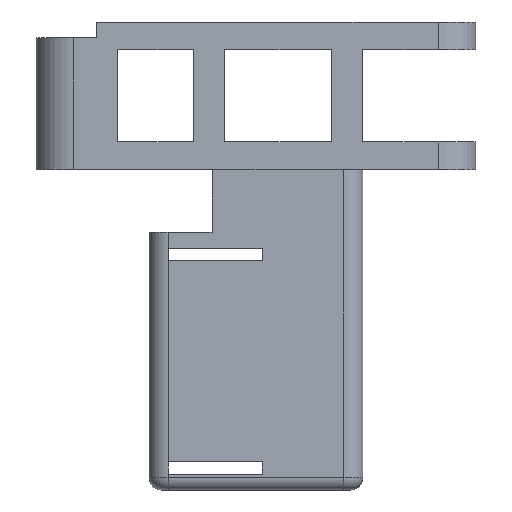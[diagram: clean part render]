
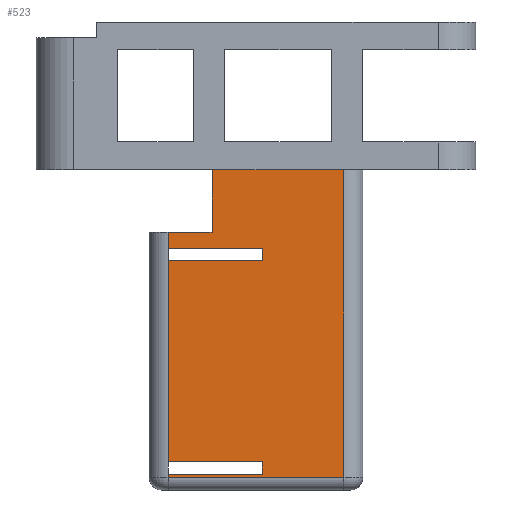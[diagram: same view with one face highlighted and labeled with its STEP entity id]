
A CAD part, left-side view. The second image highlights one B-rep face of the part: STEP entity #523.
In plain terms, the highlighted planar face has unit normal (-1, 0, 0).
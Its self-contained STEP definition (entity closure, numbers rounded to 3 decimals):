
#41 = VECTOR ( 'NONE', #944, 1000. ) ;
#47 = CARTESIAN_POINT ( 'NONE',  ( 7., 42.933, -39. ) ) ;
#58 = LINE ( 'NONE', #1145, #240 ) ;
#64 = CARTESIAN_POINT ( 'NONE',  ( 7., 28., -75.5 ) ) ;
#78 = VERTEX_POINT ( 'NONE', #86 ) ;
#86 = CARTESIAN_POINT ( 'NONE',  ( 7., 36., -34.5 ) ) ;
#89 = DIRECTION ( 'NONE',  ( 1., 0., 0. ) ) ;
#100 = EDGE_CURVE ( 'NONE', #712, #78, #1737, .T. ) ;
#101 = LINE ( 'NONE', #517, #666 ) ;
#110 = VERTEX_POINT ( 'NONE', #1371 ) ;
#130 = EDGE_CURVE ( 'NONE', #1573, #110, #280, .T. ) ;
#135 = CARTESIAN_POINT ( 'NONE',  ( 7., 27.933, -37. ) ) ;
#138 = ORIENTED_EDGE ( 'NONE', *, *, #238, .T. ) ;
#142 = VERTEX_POINT ( 'NONE', #1112 ) ;
#208 = VECTOR ( 'NONE', #1214, 1000. ) ;
#232 = ORIENTED_EDGE ( 'NONE', *, *, #676, .T. ) ;
#238 = EDGE_CURVE ( 'NONE', #142, #436, #1774, .T. ) ;
#240 = VECTOR ( 'NONE', #621, 1000. ) ;
#280 = LINE ( 'NONE', #1120, #208 ) ;
#307 = ORIENTED_EDGE ( 'NONE', *, *, #1626, .T. ) ;
#308 = VERTEX_POINT ( 'NONE', #1388 ) ;
#311 = CARTESIAN_POINT ( 'NONE',  ( 7., 36., -73. ) ) ;
#334 = ORIENTED_EDGE ( 'NONE', *, *, #390, .T. ) ;
#337 = EDGE_CURVE ( 'NONE', #834, #615, #1251, .T. ) ;
#342 = DIRECTION ( 'NONE',  ( 0., -1., 0. ) ) ;
#343 = EDGE_LOOP ( 'NONE', ( #766, #422, #334, #1271 ) ) ;
#371 = DIRECTION ( 'NONE',  ( 0., -1., 0. ) ) ;
#378 = VECTOR ( 'NONE', #672, 1000. ) ;
#383 = VECTOR ( 'NONE', #1143, 1000. ) ;
#390 = EDGE_CURVE ( 'NONE', #615, #1261, #1160, .T. ) ;
#395 = VERTEX_POINT ( 'NONE', #710 ) ;
#422 = ORIENTED_EDGE ( 'NONE', *, *, #337, .T. ) ;
#436 = VERTEX_POINT ( 'NONE', #1555 ) ;
#446 = VECTOR ( 'NONE', #794, 1000. ) ;
#454 = ORIENTED_EDGE ( 'NONE', *, *, #948, .T. ) ;
#468 = VECTOR ( 'NONE', #526, 1000. ) ;
#479 = DIRECTION ( 'NONE',  ( 0., 0., -1. ) ) ;
#503 = VECTOR ( 'NONE', #1699, 1000. ) ;
#517 = CARTESIAN_POINT ( 'NONE',  ( 7., 36., -75.5 ) ) ;
#523 = ADVANCED_FACE ( 'NONE', ( #888, #1034 ), #911, .F. ) ;
#526 = DIRECTION ( 'NONE',  ( 0., -1., 0. ) ) ;
#531 = VERTEX_POINT ( 'NONE', #1184 ) ;
#538 = ORIENTED_EDGE ( 'NONE', *, *, #1635, .T. ) ;
#548 = CARTESIAN_POINT ( 'NONE',  ( 7., 43., -75.5 ) ) ;
#585 = VECTOR ( 'NONE', #479, 1000. ) ;
#602 = EDGE_CURVE ( 'NONE', #78, #1573, #101, .T. ) ;
#610 = ORIENTED_EDGE ( 'NONE', *, *, #602, .F. ) ;
#615 = VERTEX_POINT ( 'NONE', #135 ) ;
#619 = LINE ( 'NONE', #1576, #1276 ) ;
#621 = DIRECTION ( 'NONE',  ( 0., 1., 0. ) ) ;
#628 = ORIENTED_EDGE ( 'NONE', *, *, #1053, .T. ) ;
#632 = DIRECTION ( 'NONE',  ( 0., 1., 0. ) ) ;
#659 = LINE ( 'NONE', #1520, #41 ) ;
#666 = VECTOR ( 'NONE', #1304, 1000. ) ;
#672 = DIRECTION ( 'NONE',  ( 0., -1., 0. ) ) ;
#676 = EDGE_CURVE ( 'NONE', #436, #308, #1636, .T. ) ;
#690 = CARTESIAN_POINT ( 'NONE',  ( 7., 36., -37. ) ) ;
#698 = CARTESIAN_POINT ( 'NONE',  ( 7., 28., -71. ) ) ;
#710 = CARTESIAN_POINT ( 'NONE',  ( 7., 43., -71. ) ) ;
#712 = VERTEX_POINT ( 'NONE', #1106 ) ;
#737 = CARTESIAN_POINT ( 'NONE',  ( 7., 42.933, -37. ) ) ;
#746 = CARTESIAN_POINT ( 'NONE',  ( 7., 36., -24.5 ) ) ;
#756 = LINE ( 'NONE', #64, #503 ) ;
#766 = ORIENTED_EDGE ( 'NONE', *, *, #1338, .T. ) ;
#794 = DIRECTION ( 'NONE',  ( 0., 0., 1. ) ) ;
#834 = VERTEX_POINT ( 'NONE', #737 ) ;
#843 = VERTEX_POINT ( 'NONE', #47 ) ;
#888 = FACE_BOUND ( 'NONE', #343, .T. ) ;
#889 = LINE ( 'NONE', #311, #383 ) ;
#911 = PLANE ( 'NONE',  #1704 ) ;
#925 = ORIENTED_EDGE ( 'NONE', *, *, #130, .F. ) ;
#944 = DIRECTION ( 'NONE',  ( 0., 0., 1. ) ) ;
#948 = EDGE_CURVE ( 'NONE', #712, #395, #1722, .T. ) ;
#1015 = DIRECTION ( 'NONE',  ( 0., 0., -1. ) ) ;
#1034 = FACE_OUTER_BOUND ( 'NONE', #1397, .T. ) ;
#1053 = EDGE_CURVE ( 'NONE', #308, #110, #659, .T. ) ;
#1056 = CARTESIAN_POINT ( 'NONE',  ( 7., 42.933, -75.5 ) ) ;
#1058 = CARTESIAN_POINT ( 'NONE',  ( 7., 46., -34.5 ) ) ;
#1106 = CARTESIAN_POINT ( 'NONE',  ( 7., 43., -34.5 ) ) ;
#1112 = CARTESIAN_POINT ( 'NONE',  ( 7., 43., -73. ) ) ;
#1120 = CARTESIAN_POINT ( 'NONE',  ( 7., 36., -24.5 ) ) ;
#1143 = DIRECTION ( 'NONE',  ( 0., 1., 0. ) ) ;
#1145 = CARTESIAN_POINT ( 'NONE',  ( 7., 36., -39. ) ) ;
#1154 = ORIENTED_EDGE ( 'NONE', *, *, #100, .F. ) ;
#1160 = LINE ( 'NONE', #1542, #1645 ) ;
#1184 = CARTESIAN_POINT ( 'NONE',  ( 7., 28., -73. ) ) ;
#1214 = DIRECTION ( 'NONE',  ( 0., -1., 0. ) ) ;
#1222 = EDGE_CURVE ( 'NONE', #1261, #843, #58, .T. ) ;
#1231 = VERTEX_POINT ( 'NONE', #698 ) ;
#1251 = LINE ( 'NONE', #690, #378 ) ;
#1261 = VERTEX_POINT ( 'NONE', #1279 ) ;
#1271 = ORIENTED_EDGE ( 'NONE', *, *, #1222, .T. ) ;
#1276 = VECTOR ( 'NONE', #342, 1000. ) ;
#1279 = CARTESIAN_POINT ( 'NONE',  ( 7., 27.933, -39. ) ) ;
#1297 = ORIENTED_EDGE ( 'NONE', *, *, #1574, .T. ) ;
#1304 = DIRECTION ( 'NONE',  ( 0., 0., 1. ) ) ;
#1313 = CARTESIAN_POINT ( 'NONE',  ( 7., 36., -75.5 ) ) ;
#1325 = VECTOR ( 'NONE', #1347, 1000. ) ;
#1333 = LINE ( 'NONE', #1056, #446 ) ;
#1338 = EDGE_CURVE ( 'NONE', #843, #834, #1333, .T. ) ;
#1347 = DIRECTION ( 'NONE',  ( 0., 0., -1. ) ) ;
#1371 = CARTESIAN_POINT ( 'NONE',  ( 7., 15., -24.5 ) ) ;
#1387 = CARTESIAN_POINT ( 'NONE',  ( 7., 15., -73.5 ) ) ;
#1388 = CARTESIAN_POINT ( 'NONE',  ( 7., 15., -73.5 ) ) ;
#1397 = EDGE_LOOP ( 'NONE', ( #138, #232, #628, #925, #610, #1154, #454, #307, #1297, #538 ) ) ;
#1520 = CARTESIAN_POINT ( 'NONE',  ( 7., 15., -75.5 ) ) ;
#1542 = CARTESIAN_POINT ( 'NONE',  ( 7., 27.933, -75.5 ) ) ;
#1555 = CARTESIAN_POINT ( 'NONE',  ( 7., 43., -73.5 ) ) ;
#1573 = VERTEX_POINT ( 'NONE', #746 ) ;
#1574 = EDGE_CURVE ( 'NONE', #1231, #531, #756, .T. ) ;
#1576 = CARTESIAN_POINT ( 'NONE',  ( 7., 36., -71. ) ) ;
#1626 = EDGE_CURVE ( 'NONE', #395, #1231, #619, .T. ) ;
#1635 = EDGE_CURVE ( 'NONE', #531, #142, #889, .T. ) ;
#1636 = LINE ( 'NONE', #1387, #468 ) ;
#1644 = VECTOR ( 'NONE', #371, 1000. ) ;
#1645 = VECTOR ( 'NONE', #1015, 1000. ) ;
#1699 = DIRECTION ( 'NONE',  ( 0., 0., -1. ) ) ;
#1704 = AXIS2_PLACEMENT_3D ( 'NONE', #1313, #89, #632 ) ;
#1722 = LINE ( 'NONE', #1729, #585 ) ;
#1729 = CARTESIAN_POINT ( 'NONE',  ( 7., 43., -75.5 ) ) ;
#1737 = LINE ( 'NONE', #1058, #1644 ) ;
#1774 = LINE ( 'NONE', #548, #1325 ) ;
